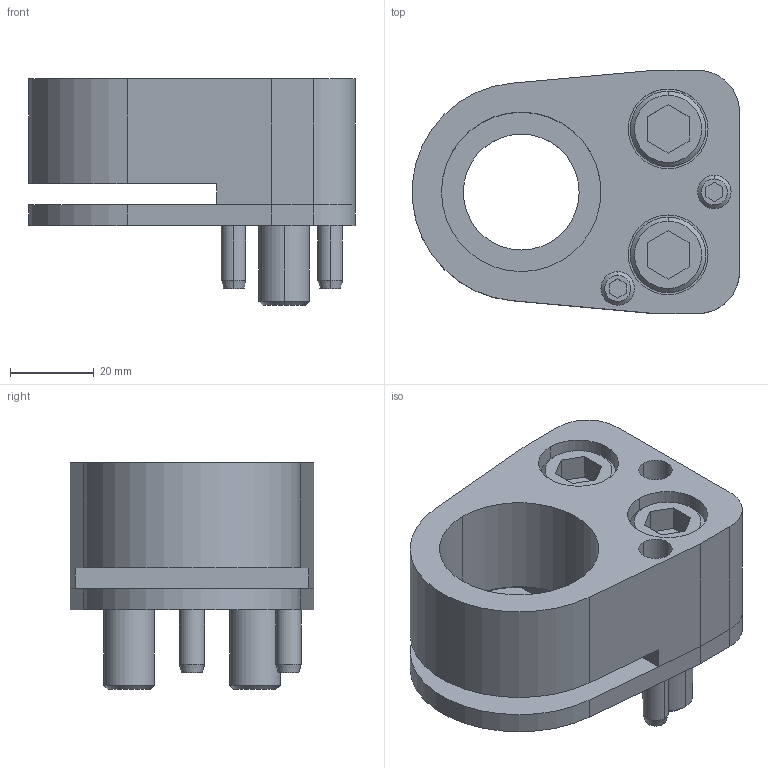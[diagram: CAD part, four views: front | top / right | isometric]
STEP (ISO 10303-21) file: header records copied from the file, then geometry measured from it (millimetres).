
FILE_DESCRIPTION(/* description */ (''),/* implementation_level */ '2;1');
FILE_NAME(/* name */ '3d_dp-fd38_02840_r00.stp',/* time_stamp */ '2011-01-10T14:15:56+09:00',/* author */ ('MISUMI'),/* organization */ (''),/* preprocessor_version */ 'ST-DEVELOPER v11',/* originating_system */ 'UGS - NX 5.0',/* authorisation */ '');
FILE_SCHEMA (('CONFIG_CONTROL_DESIGN'));
Length unit declared in the file: millimetre
Products named in the file (1): 3d_dp-fd38_02840_r00
Bounding box: 77.9 x 58 x 54 mm (x, y, z)
Volume: 95828.3 mm3; surface area: 34970.1 mm2
Topology: 8 solids, 8 shells, 154 faces, 350 edges, 225 vertices
Faces by surface type: plane 68, cylinder 60, cone 26
Entity records: 4500 total; most frequent: DIRECTION 802, CARTESIAN_POINT 787, ORIENTED_EDGE 700, EDGE_CURVE 350, AXIS2_PLACEMENT_3D 302, VERTEX_POINT 225, LINE 198, VECTOR 198
